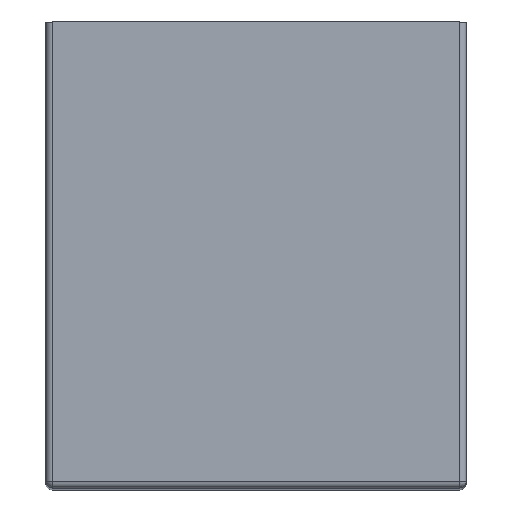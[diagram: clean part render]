
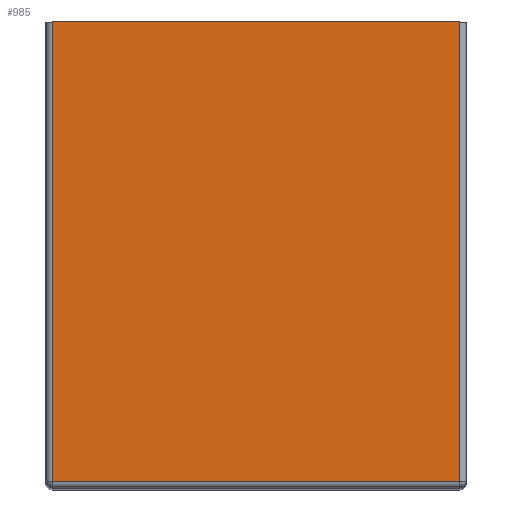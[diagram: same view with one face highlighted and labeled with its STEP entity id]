
A CAD part, top view. The second image highlights one B-rep face of the part: STEP entity #985.
In plain terms, the highlighted planar face has unit normal (0, 0, 1).
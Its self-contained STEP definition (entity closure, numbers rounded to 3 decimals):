
#35=PLANE('',#1099);
#89=FACE_OUTER_BOUND('',#147,.T.);
#147=EDGE_LOOP('',(#837,#838,#839,#840));
#186=LINE('',#1512,#274);
#227=LINE('',#1659,#315);
#229=LINE('',#1662,#317);
#238=LINE('',#1695,#326);
#274=VECTOR('',#1180,18.);
#315=VECTOR('',#1345,18.);
#317=VECTOR('',#1349,20.3);
#326=VECTOR('',#1390,20.3);
#425=VERTEX_POINT('',#1509);
#426=VERTEX_POINT('',#1511);
#466=VERTEX_POINT('',#1646);
#470=VERTEX_POINT('',#1655);
#519=EDGE_CURVE('',#425,#426,#186,.T.);
#593=EDGE_CURVE('',#466,#470,#227,.T.);
#595=EDGE_CURVE('',#470,#425,#229,.T.);
#612=EDGE_CURVE('',#426,#466,#238,.T.);
#837=ORIENTED_EDGE('',*,*,#595,.F.);
#838=ORIENTED_EDGE('',*,*,#593,.F.);
#839=ORIENTED_EDGE('',*,*,#612,.F.);
#840=ORIENTED_EDGE('',*,*,#519,.F.);
#985=ADVANCED_FACE('',(#89),#35,.T.);
#1099=AXIS2_PLACEMENT_3D('',#1697,#1392,#1393);
#1180=DIRECTION('',(1.,0.,0.));
#1345=DIRECTION('',(-1.,0.,0.));
#1349=DIRECTION('',(0.,1.,0.));
#1390=DIRECTION('',(0.,-1.,0.));
#1392=DIRECTION('center_axis',(0.,0.,1.));
#1393=DIRECTION('ref_axis',(1.,0.,0.));
#1509=CARTESIAN_POINT('',(-9.,20.6,25.5));
#1511=CARTESIAN_POINT('',(9.,20.6,25.5));
#1512=CARTESIAN_POINT('',(-9.3,20.6,25.5));
#1646=CARTESIAN_POINT('',(9.,0.3,25.5));
#1655=CARTESIAN_POINT('',(-9.,0.3,25.5));
#1659=CARTESIAN_POINT('',(-4.65,0.3,25.5));
#1662=CARTESIAN_POINT('',(-9.,0.,25.5));
#1695=CARTESIAN_POINT('',(9.,0.,25.5));
#1697=CARTESIAN_POINT('Origin',(-9.3,0.,25.5));
